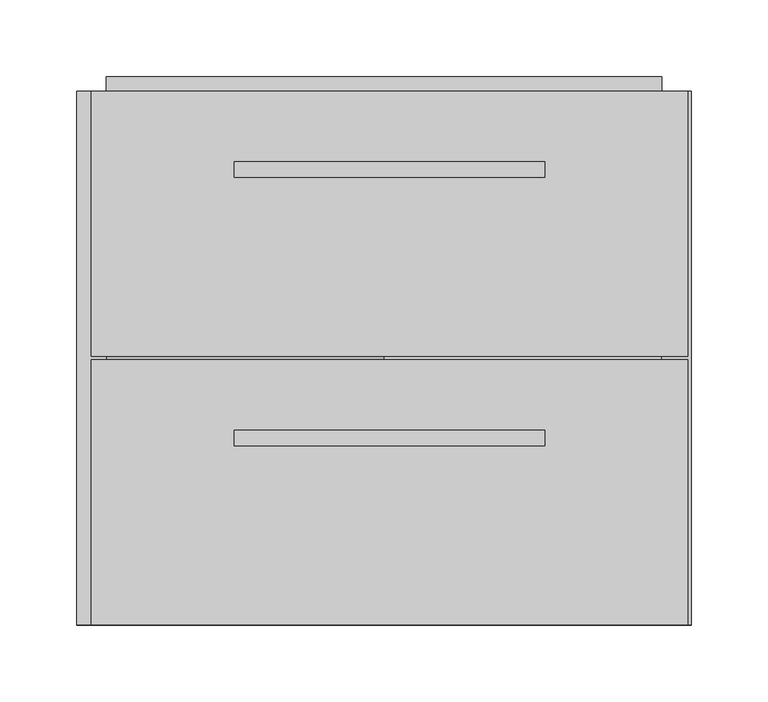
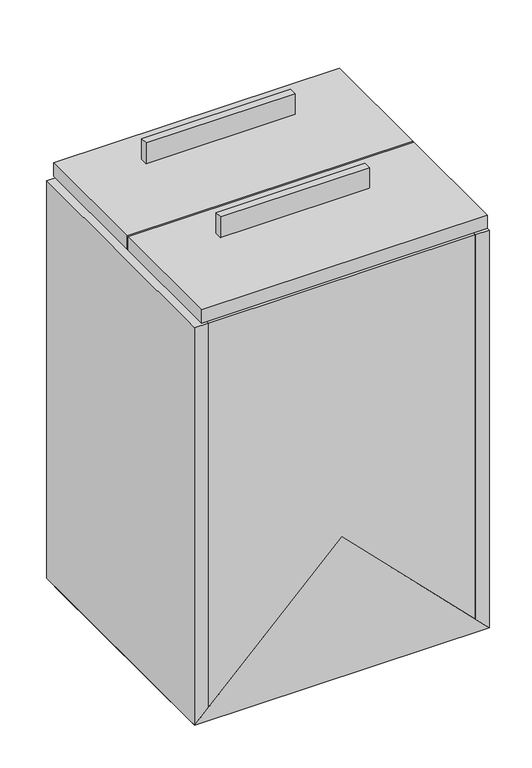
"""IFC4 building model written with IfcOpenShell, lengths in millimetres: proxy geometry, BASYS^23.3125 HANGING PED_LETTER LEFT-BB PED."""

from ifc_helpers import new_model, si_unit, frame, origin, place, context, project, spatial, polyline, outline, extrude, source, transform, mapped, element, save


def generic_models_4533174e(model_context):
    return source(origin(), model_context, "Body", "SweptSolid", [
        extrude(outline(polyline([(304.596875, 291.545), (102.596875, 291.545), (102.596875, 301.545), (304.596875, 301.545), (304.596875, 291.545)])), frame((0.0, 0.0, 592.1375), z_axis=(0.0, 0.0, 1.0), x_axis=(1.0, 0.0, 0.0)), (0.0, 0.0, 1.0), 30.0),
        extrude(outline(polyline([(19.05, 381.0), (0.0, 400.05), (569.9125, 400.05), (569.9125, 381.0), (19.05, 381.0)])), frame((0.0, 0.0, 0.0), z_axis=(0.0, 1.0, 0.0), x_axis=(0.0, 0.0, 1.0)), (0.0, 0.0, 1.0), 347.345),
        extrude(outline(polyline([(0.0, 400.05), (200.025, 200.025), (0.0, 0.0), (0.0, 400.05)])), frame((0.0, 0.0, 0.0), z_axis=(0.0, 1.0, 0.0), x_axis=(0.0, 0.0, 1.0)), (0.0, 0.0, 1.0), 328.295),
        extrude(outline(polyline([(19.05, 0.0), (19.05, 19.05), (381.0, 19.05), (381.0, 0.0), (19.05, 0.0)])), frame((0.0, 0.0, 19.05), z_axis=(0.0, 0.0, 1.0), x_axis=(1.0, 0.0, 0.0)), (0.0, 0.0, 1.0), 550.8625),
        extrude(outline(polyline([(397.66875, 347.345), (397.66875, 174.863125), (9.525, 174.863125), (9.525, 347.345), (397.66875, 347.345)])), frame((0.0, 0.0, 573.0875), z_axis=(0.0, 0.0, 1.0), x_axis=(1.0, 0.0, 0.0)), (0.0, 0.0, 1.0), 19.05),
        extrude(outline(polyline([(0.0, 0.0), (19.05, 19.05), (569.9125, 19.05), (569.9125, 0.0), (0.0, 0.0)])), frame((0.0, 0.0, 0.0), z_axis=(0.0, 1.0, 0.0), x_axis=(0.0, 0.0, 1.0)), (0.0, 0.0, 1.0), 347.345),
        extrude(outline(polyline([(381.0, 356.87), (381.0, 328.295), (19.05, 328.295), (19.05, 356.87), (381.0, 356.87)])), frame((0.0, 0.0, 25.4), z_axis=(0.0, 0.0, 1.0), x_axis=(1.0, 0.0, 0.0)), (0.0, 0.0, 1.0), 544.5125),
        extrude(outline(polyline([(9.525, 0.0), (9.525, 172.481875), (397.66875, 172.481875), (397.66875, 0.0), (9.525, 0.0)])), frame((0.0, 0.0, 573.0875), z_axis=(0.0, 0.0, 1.0), x_axis=(1.0, 0.0, 0.0)), (0.0, 0.0, 1.0), 19.05),
        extrude(outline(polyline([(304.596875, 116.681875), (102.596875, 116.681875), (102.596875, 126.681875), (304.596875, 126.681875), (304.596875, 116.681875)])), frame((0.0, 0.0, 592.1375), z_axis=(0.0, 0.0, 1.0), x_axis=(1.0, 0.0, 0.0)), (0.0, 0.0, 1.0), 30.0),
    ])


if __name__ == "__main__":
    model = new_model("IFC4")
    model_context = context("Model", 3, world=origin())
    ifc_project = project(units=[si_unit("LENGTHUNIT", "METRE", prefix="MILLI")], contexts=[model_context])
    site = spatial("IfcSite", under=ifc_project)
    building = spatial("IfcBuilding", under=site)
    placement = place(None, origin())
    generic_models_shape = generic_models_4533174e(model_context)
    element("IfcBuildingElementProxy", 1, Name="BASYS^23.3125 HANGING PED_LETTER LEFT-BB PED", ObjectType="BASYS^23.3125 HANGING PED_LETTER LEFT-BB PED", at=placement, inside=building, context=model_context, shape_type="MappedRepresentation", body=[
        mapped(generic_models_shape, transform((0.0, 0.0, 0.0), x_axis=(1.0, 0.0, 0.0), y_axis=(0.0, 1.0, 0.0), z_axis=(0.0, 0.0, 1.0))),
    ])
    save(model, "model.ifc")
